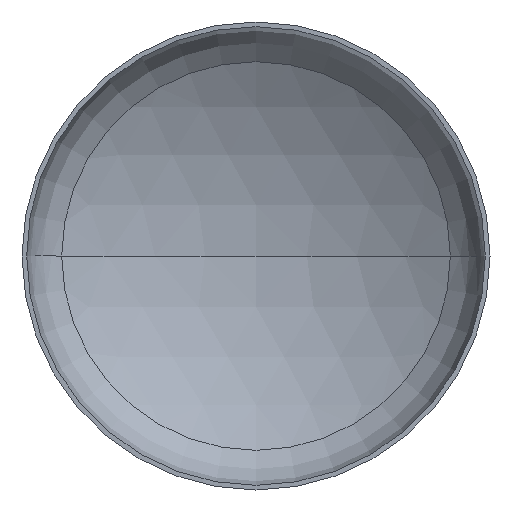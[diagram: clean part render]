
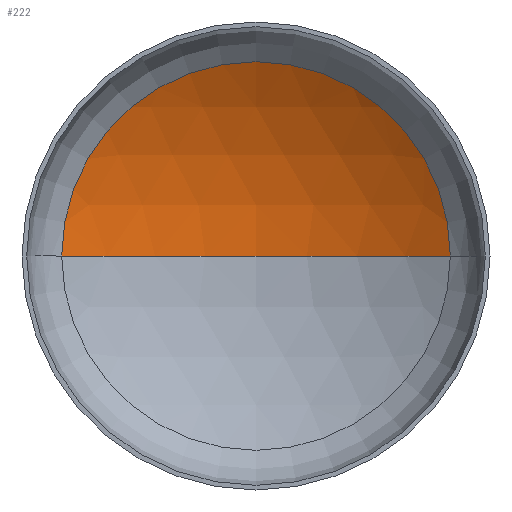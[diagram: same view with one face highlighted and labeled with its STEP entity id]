
A CAD part, front view. The second image highlights one B-rep face of the part: STEP entity #222.
In plain terms, the highlighted spherical face has radius 720 mm.
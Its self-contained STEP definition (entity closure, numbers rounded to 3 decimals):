
#6 = ORIENTED_EDGE ( 'NONE', *, *, #105, .F. ) ;
#10 = EDGE_LOOP ( 'NONE', ( #6, #135, #121 ) ) ;
#39 = AXIS2_PLACEMENT_3D ( 'NONE', #223, #247, #193 ) ;
#41 = VERTEX_POINT ( 'NONE', #368 ) ;
#48 = VERTEX_POINT ( 'NONE', #254 ) ;
#60 = AXIS2_PLACEMENT_3D ( 'NONE', #207, #310, #276 ) ;
#64 = AXIS2_PLACEMENT_3D ( 'NONE', #221, #217, #219 ) ;
#66 = CARTESIAN_POINT ( 'NONE',  ( -373.655, 149.671, 0. ) ) ;
#67 = AXIS2_PLACEMENT_3D ( 'NONE', #312, #308, #232 ) ;
#78 = FACE_OUTER_BOUND ( 'NONE', #10, .T. ) ;
#98 = EDGE_CURVE ( 'NONE', #48, #245, #387, .T. ) ;
#101 = EDGE_CURVE ( 'NONE', #41, #48, #337, .T. ) ;
#105 = EDGE_CURVE ( 'NONE', #41, #245, #220, .T. ) ;
#121 = ORIENTED_EDGE ( 'NONE', *, *, #98, .T. ) ;
#135 = ORIENTED_EDGE ( 'NONE', *, *, #101, .T. ) ;
#193 = DIRECTION ( 'NONE',  ( -1., 0., 0. ) ) ;
#207 = CARTESIAN_POINT ( 'NONE',  ( 0., -465.781, 0. ) ) ;
#217 = DIRECTION ( 'NONE',  ( 0., 0., -1. ) ) ;
#219 = DIRECTION ( 'NONE',  ( -1., 0., 0. ) ) ;
#220 = CIRCLE ( 'NONE', #60, 720. ) ;
#221 = CARTESIAN_POINT ( 'NONE',  ( 0., -465.781, 0. ) ) ;
#222 = ADVANCED_FACE ( 'NONE', ( #78 ), #380, .F. ) ;
#223 = CARTESIAN_POINT ( 'NONE',  ( 0., -465.781, 0. ) ) ;
#232 = DIRECTION ( 'NONE',  ( 1., 0., 0. ) ) ;
#245 = VERTEX_POINT ( 'NONE', #66 ) ;
#247 = DIRECTION ( 'NONE',  ( 0., 0., -1. ) ) ;
#254 = CARTESIAN_POINT ( 'NONE',  ( 373.655, 149.671, 0. ) ) ;
#276 = DIRECTION ( 'NONE',  ( 1., 0., 0. ) ) ;
#308 = DIRECTION ( 'NONE',  ( 0., -1., 0. ) ) ;
#310 = DIRECTION ( 'NONE',  ( 0., 0., 1. ) ) ;
#312 = CARTESIAN_POINT ( 'NONE',  ( 0., 149.671, 0. ) ) ;
#337 = CIRCLE ( 'NONE', #64, 720. ) ;
#368 = CARTESIAN_POINT ( 'NONE',  ( 0., 254.219, 0. ) ) ;
#380 = SPHERICAL_SURFACE ( 'NONE', #39, 720. ) ;
#387 = CIRCLE ( 'NONE', #67, 373.655 ) ;
